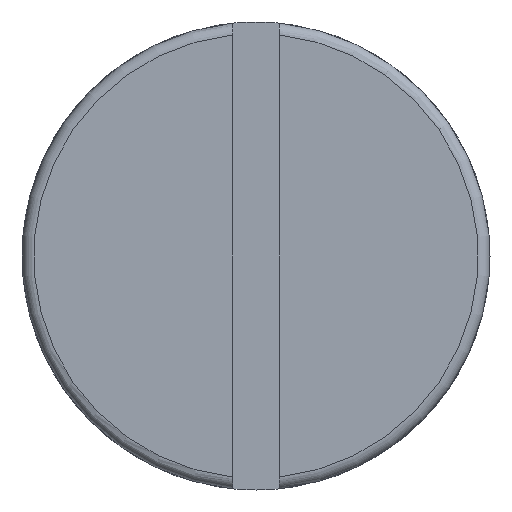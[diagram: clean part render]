
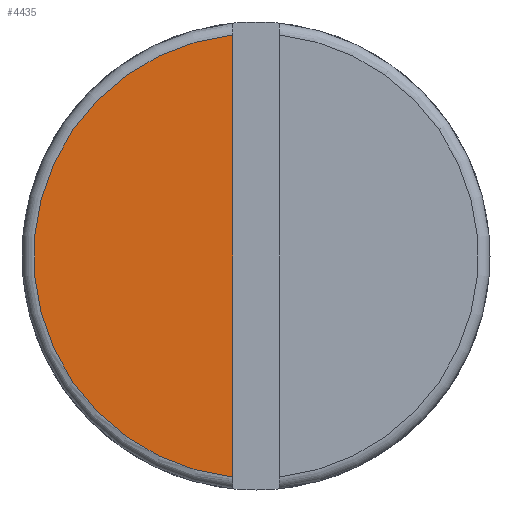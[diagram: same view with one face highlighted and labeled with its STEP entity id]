
A CAD part, front view. The second image highlights one B-rep face of the part: STEP entity #4435.
In plain terms, the highlighted planar face has unit normal (0, -1, 0).
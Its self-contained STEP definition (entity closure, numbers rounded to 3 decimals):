
#4 = DIRECTION ( 'NONE',  ( 0., 0., 1. ) ) ;
#292 = CARTESIAN_POINT ( 'NONE',  ( -1., 0., -9.447 ) ) ;
#488 = DIRECTION ( 'NONE',  ( 0., 0., 1. ) ) ;
#810 = EDGE_LOOP ( 'NONE', ( #5650, #1529 ) ) ;
#1011 = DIRECTION ( 'NONE',  ( 0., 1., 0. ) ) ;
#1529 = ORIENTED_EDGE ( 'NONE', *, *, #5195, .T. ) ;
#2300 = FACE_OUTER_BOUND ( 'NONE', #810, .T. ) ;
#2395 = CARTESIAN_POINT ( 'NONE',  ( 0., 0., 0. ) ) ;
#2839 = DIRECTION ( 'NONE',  ( 0., -1., 0. ) ) ;
#2853 = LINE ( 'NONE', #2979, #5494 ) ;
#2979 = CARTESIAN_POINT ( 'NONE',  ( -1., 0., 0. ) ) ;
#2981 = CIRCLE ( 'NONE', #3266, 9.5 ) ;
#3137 = EDGE_CURVE ( 'NONE', #4877, #5046, #2853, .T. ) ;
#3173 = CARTESIAN_POINT ( 'NONE',  ( 0., 0., 0. ) ) ;
#3266 = AXIS2_PLACEMENT_3D ( 'NONE', #3173, #2839, #488 ) ;
#4142 = PLANE ( 'NONE',  #4257 ) ;
#4257 = AXIS2_PLACEMENT_3D ( 'NONE', #2395, #1011, #4 ) ;
#4435 = ADVANCED_FACE ( 'NONE', ( #2300 ), #4142, .F. ) ;
#4695 = DIRECTION ( 'NONE',  ( 0., 0., 1. ) ) ;
#4877 = VERTEX_POINT ( 'NONE', #292 ) ;
#5046 = VERTEX_POINT ( 'NONE', #5981 ) ;
#5195 = EDGE_CURVE ( 'NONE', #5046, #4877, #2981, .T. ) ;
#5494 = VECTOR ( 'NONE', #4695, 1000. ) ;
#5650 = ORIENTED_EDGE ( 'NONE', *, *, #3137, .T. ) ;
#5981 = CARTESIAN_POINT ( 'NONE',  ( -1., 0., 9.447 ) ) ;
